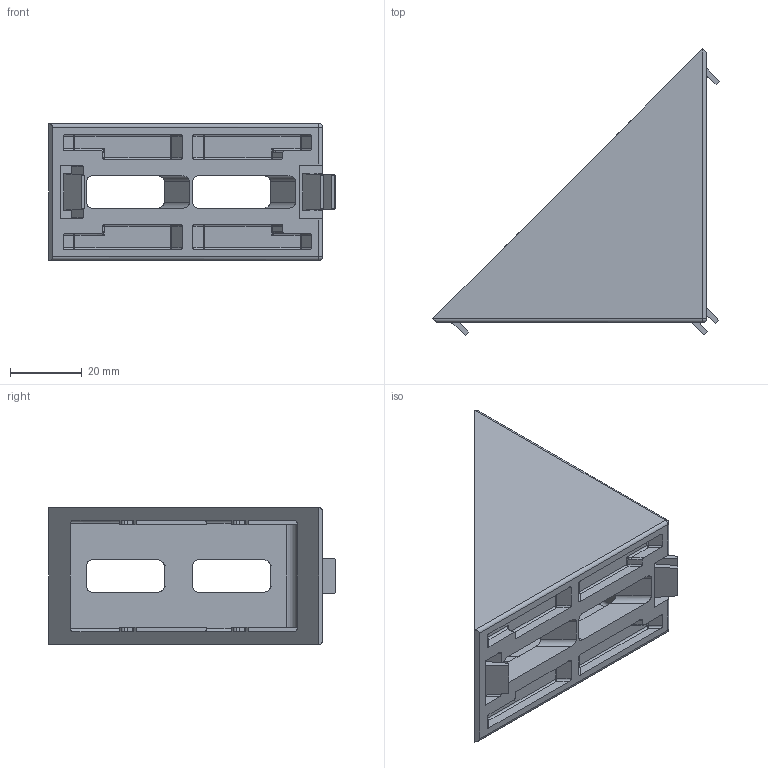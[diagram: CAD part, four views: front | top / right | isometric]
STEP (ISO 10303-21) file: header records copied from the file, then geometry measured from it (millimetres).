
FILE_DESCRIPTION(('STEP AP214'),'1');
FILE_NAME('C:/TPO v2/SharedFS/Outgoing/fath_093w802n10r.stp','2016-08-29T07:57:14',('TraceParts'),('TraceParts S.A.'),'Spatial InterOp 3D',' ',' ');
FILE_SCHEMA(('automotive_design'));
Length unit declared in the file: millimetre
Products named in the file (1): fath_093w802n10r
Bounding box: 79.5 x 79.5 x 38 mm (x, y, z)
Volume: 40903.1 mm3; surface area: 23173.1 mm2
Topology: 1 solids, 1 shells, 347 faces, 866 edges, 506 vertices
Faces by surface type: plane 146, cylinder 143, sphere 42, bspline 14, torus 2
Entity records: 12863 total; most frequent: CARTESIAN_POINT 2240, ORIENTED_EDGE 1672, DIRECTION 1594, EDGE_CURVE 836, AXIS2_PLACEMENT_3D 532, LINE 530, VECTOR 530, VERTEX_POINT 506
